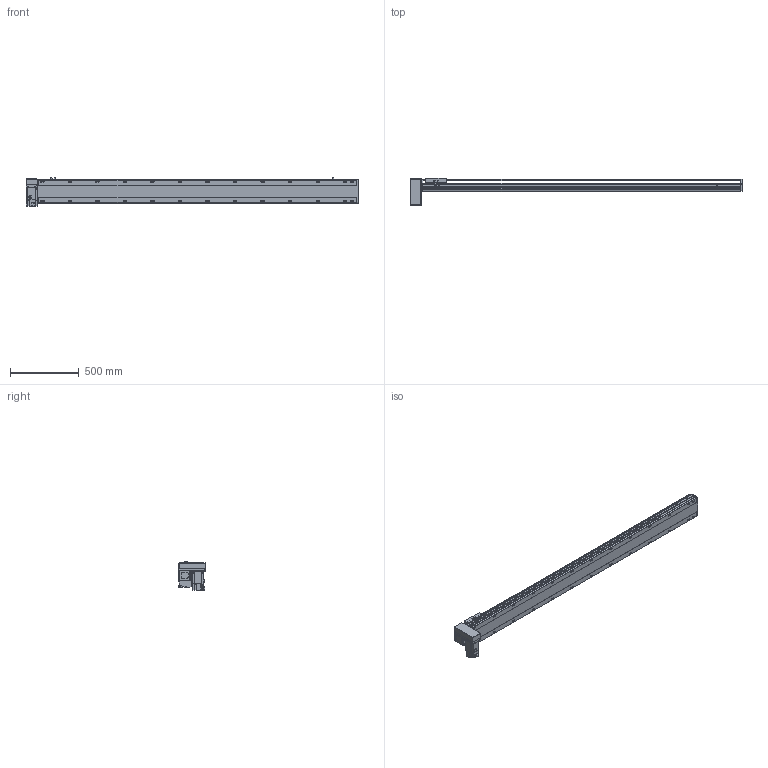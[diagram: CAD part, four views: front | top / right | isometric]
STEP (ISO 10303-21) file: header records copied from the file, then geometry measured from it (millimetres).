
FILE_DESCRIPTION( ( 'STEP AP214' ), '1' );
FILE_NAME( 'x:/temp/worker_5/temp/exporttempdir_3988_41_AJP2c/format_0/PBS170-P40-S2050-RD-T75-C1-N(0).stp', '2022-06-08T05:37:08', ( 'License CC BY-ND 4.0' ), ( 'CADENAS' ), ' ', 'PARTsolutions', ' ' );
FILE_SCHEMA( ( 'AUTOMOTIVE_DESIGN { 1 0 10303 214 1 1 1 1 }' ) );
Length unit declared in the file: millimetre
Products named in the file (7): PBS170-P40-S2050-RD-T75-C1-N(0); _PBS170-S2050()_body; _PBS170T-RD_motors; _T75-p1; _PBS170_sliser; _PBS170_plant; _PBS170_sensor
Assembly tree (8 placements, depth 2):
  PBS170-P40-S2050-RD-T75-C1-N(0)
    _PBS170-S2050()_body
    _PBS170T-RD_motors
    _T75-p1
    _PBS170_sliser
    _PBS170_plant
    _PBS170_sensor  x3
Bounding box: 2413 x 201 x 205.3 mm (x, y, z)
Volume: 18469247.2 mm3; surface area: 2343893.3 mm2
Topology: 8 solids, 8 shells, 1162 faces, 3075 edges, 2004 vertices
Faces by surface type: plane 717, cylinder 379, cone 56, sphere 8, torus 2
Full cylindrical faces by diameter (mm): 3.242 x4, 4 x2, 4.4 x4, 4.5 x6, 4.917 x4, 6 x9, 6.647 x34, 7 x2, 7.5 x4, 8 x8, 8.5 x26, 10 x4, 10.5 x26, 11 x2, 30 x2, 40 x1, 70 x1
Entity records: 42950 total; most frequent: CARTESIAN_POINT 7061, DIRECTION 5650, ORIENTED_EDGE 5328, EDGE_CURVE 2664, AXIS2_PLACEMENT_3D 1987, VERTEX_POINT 1850, LINE 1676, VECTOR 1676
